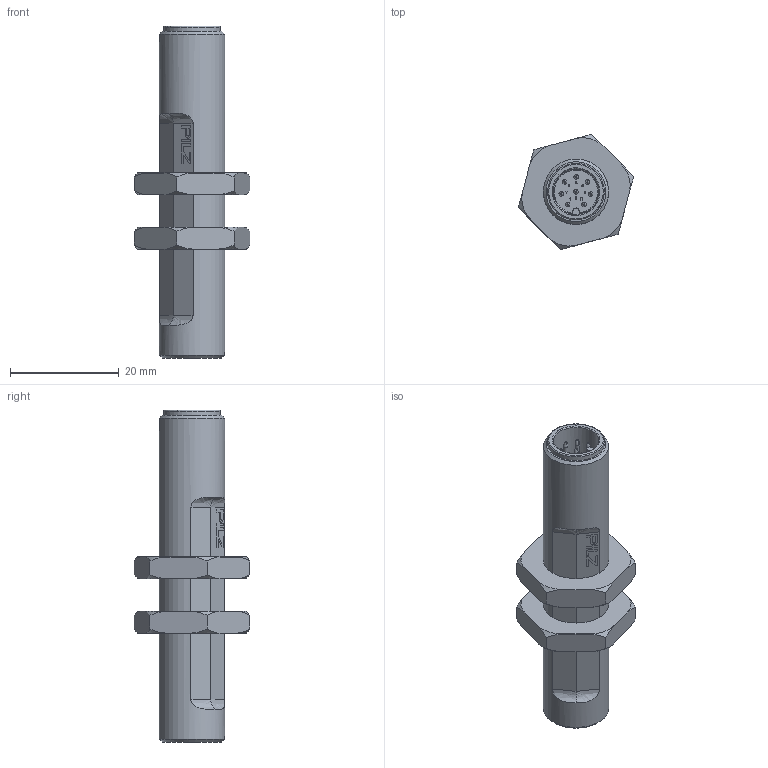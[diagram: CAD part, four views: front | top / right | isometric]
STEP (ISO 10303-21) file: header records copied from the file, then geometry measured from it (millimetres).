
FILE_DESCRIPTION(/* description */ (''),/* implementation_level */ '2;1');
FILE_NAME(/* name */ 'D:\_Vault\Workspace\Projektordner\3-Sensoren\04-NSC\14-PSEN_mag_M12_Edelstahl\03-Kundendaten/2025384_C_PSENma1.3 VA switch.stp',/* time_stamp */ '2018-10-26T09:02:18+02:00',/* author */ ('drod'),/* organization */ (''),/* preprocessor_version */ 'ST-DEVELOPER v16.5',/* originating_system */ 'Autodesk Inventor 2017',/* authorisation */ '');
FILE_SCHEMA (('AUTOMOTIVE_DESIGN { 1 0 10303 214 3 1 1 }'));
Length unit declared in the file: millimetre
Products named in the file (3): 2025384; PSENma1.3_VA_switch_OM; Mutter_M12x1
Assembly tree (3 placements, depth 2):
  2025384
    PSENma1.3_VA_switch_OM
    Mutter_M12x1  x2
Bounding box: 21.19 x 21.19 x 61 mm (x, y, z)
Volume: 7387.6 mm3; surface area: 4411.4 mm2
Topology: 3 solids, 3 shells, 460 faces, 1284 edges, 859 vertices
Faces by surface type: plane 391, cylinder 40, bspline 24, torus 3, cone 2
Full cylindrical faces by diameter (mm): 0.8 x8, 8.375 x1, 10.4 x1, 12 x3
Entity records: 14300 total; most frequent: CARTESIAN_POINT 3298, ORIENTED_EDGE 2344, DIRECTION 2079, EDGE_CURVE 1172, LINE 1007, VECTOR 1007, VERTEX_POINT 794, AXIS2_PLACEMENT_3D 536
